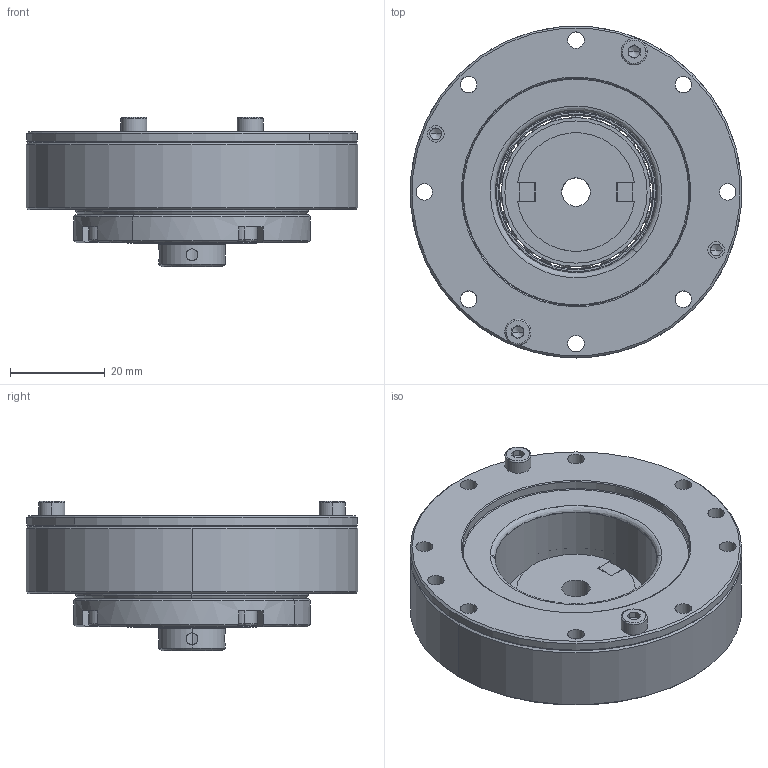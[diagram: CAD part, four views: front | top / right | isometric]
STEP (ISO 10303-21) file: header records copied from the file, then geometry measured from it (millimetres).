
FILE_DESCRIPTION (( 'STEP AP203' ), '1' );
FILE_NAME ('LHSG-14-XXX-C-II.step', '2025-01-07T06:46:54', ( '' ), ( '' ), 'SwSTEP 2.0', 'SolidWorks 2023', '' );
FILE_SCHEMA (( 'CONFIG_CONTROL_DESIGN' ));
Length unit declared in the file: metre
Products named in the file (1): LHSG-14-XXX-C-II
Bounding box: 70 x 70 x 31.5 mm (x, y, z)
Volume: 53395.9 mm3; surface area: 49635.9 mm2
Topology: 43 solids, 43 shells, 783 faces, 1943 edges, 1156 vertices
Faces by surface type: cylinder 317, plane 245, cone 111, bspline 110
Entity records: 25552 total; most frequent: CARTESIAN_POINT 7265, DIRECTION 4052, ORIENTED_EDGE 3610, EDGE_CURVE 1805, AXIS2_PLACEMENT_3D 1653, VERTEX_POINT 1156, CIRCLE 979, EDGE_LOOP 935
